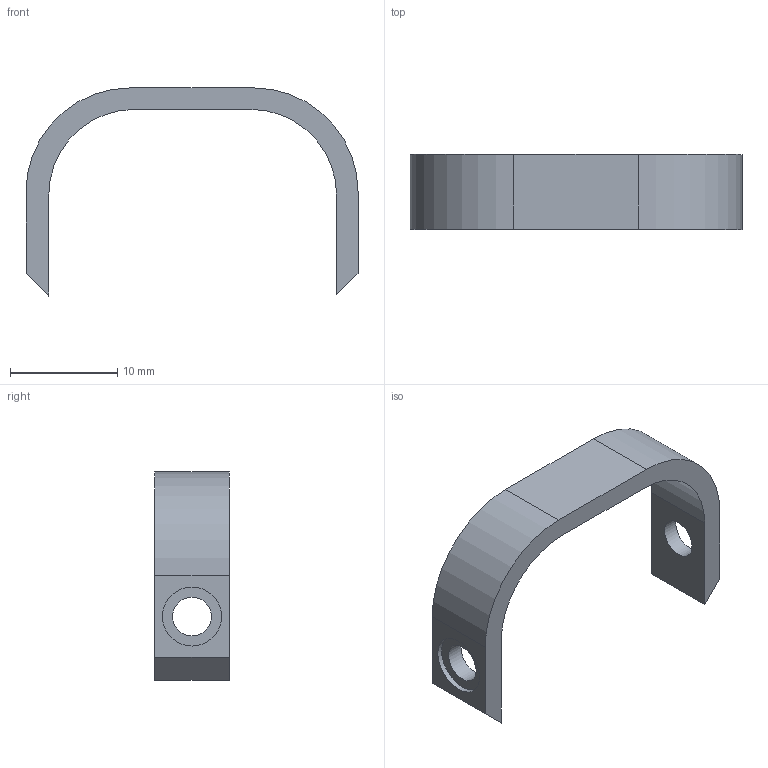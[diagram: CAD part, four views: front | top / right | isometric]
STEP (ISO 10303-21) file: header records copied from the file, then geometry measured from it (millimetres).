
FILE_DESCRIPTION(('HOOPS Exchange Step'),'2;1');
FILE_NAME('/private/var/mobile/Containers/Data/Application/4F40B09C-B543-4287-94D3-5CCF782DB2F4/tmp/export/temp_export','2026-06-06T11:40:48-05:00',('mobile'),('Shapr3D Limited'),'HOOPS Exchange 2026.3','Shapr3D','Authorized');
FILE_SCHEMA( ('AP242_MANAGED_MODEL_BASED_3D_ENGINEERING_MIM_LF {1 0 10303 442 1 1 4}') );
Length unit declared in the file: millimetre
Products named in the file (3): Conduit bar.step; Elec Housing; root
Assembly tree (2 placements, depth 3):
  root
    Elec Housing
      Conduit bar.step
Bounding box: 31 x 7 x 19.43 mm (x, y, z)
Volume: 759.5 mm3; surface area: 1069.5 mm2
Topology: 1 solids, 1 shells, 20 faces, 48 edges, 32 vertices
Faces by surface type: plane 12, cylinder 8
Full cylindrical faces by diameter (mm): 3.625 x2, 5.5 x2
Entity records: 682 total; most frequent: DIRECTION 116, CARTESIAN_POINT 106, ORIENTED_EDGE 96, EDGE_CURVE 48, AXIS2_PLACEMENT_3D 42, VERTEX_POINT 32, VECTOR 32, LINE 32
